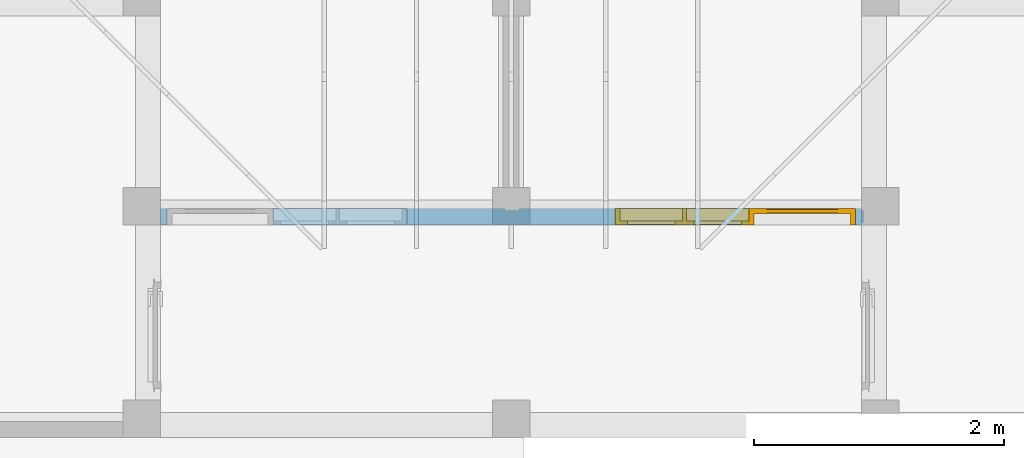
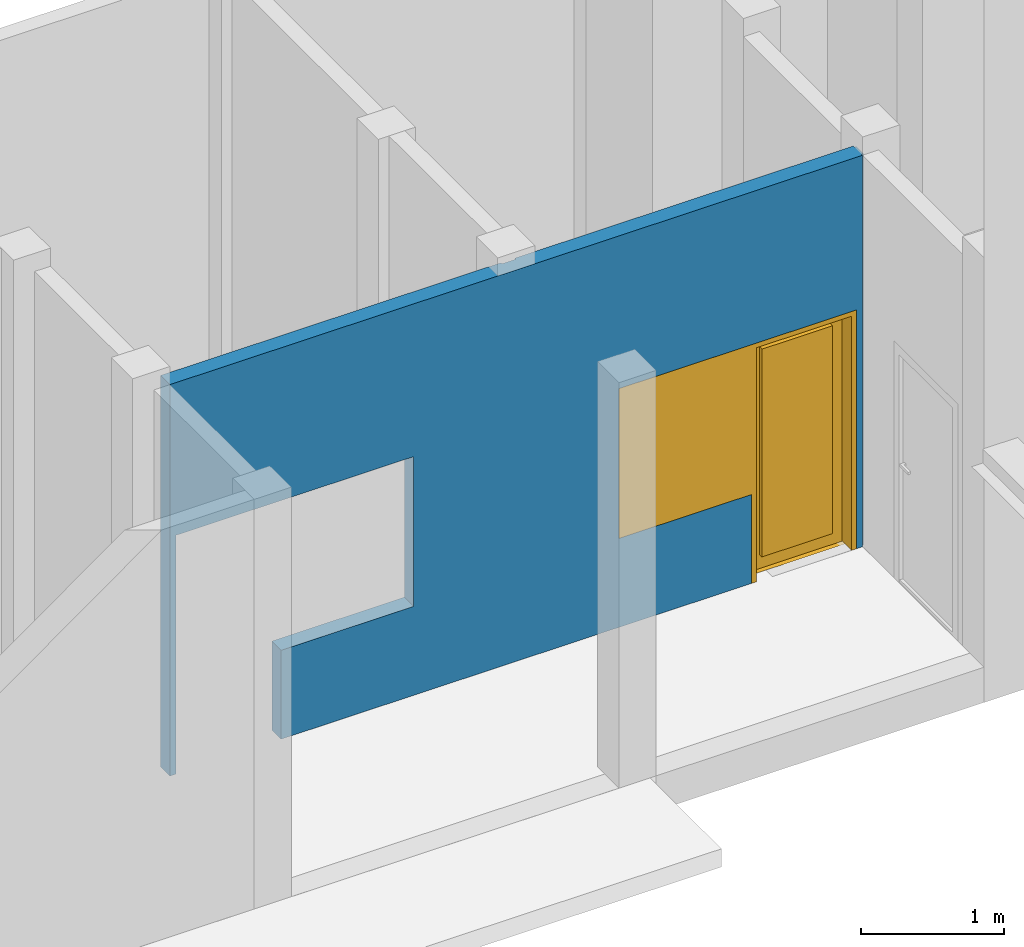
# One storey, part 5 of 10: 1 door, 1 wall, 2 openings.
"""IFC4X3_ADD2 building model written with IfcOpenShell, lengths in millimetres."""

from ifc_helpers import new_model, entity, si_unit, converted_unit, frame, origin_with_axes, origin_2d_with_axis, place, context, subcontext, project, spatial, line, indexed_curve, outline, extrude, polygons, source, transform, mapped, material, layer, layer_set, layer_usage, type_object, type_shapes, element, fill, save


model = new_model("IFC4X3_ADD2")

# Units and contexts
model_context = context("Model", 3, precision=1e-05, world=origin_with_axes())
plan_context = context("Plan", 2, precision=1e-05, world=origin_2d_with_axis())
body_context = subcontext(model_context, "Body", "Model", "MODEL_VIEW")
ifc_project = project(units=[si_unit("VOLUMEUNIT", "CUBIC_METRE"), si_unit("LENGTHUNIT", "METRE", prefix="MILLI"), converted_unit("PLANEANGLEUNIT", "degree", entity("IfcReal", 0.0174532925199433), si_unit("PLANEANGLEUNIT", "RADIAN"), dimensions=[0, 0, 0, 0, 0, 0, 0]), si_unit("AREAUNIT", "SQUARE_METRE")], contexts=[model_context, plan_context])

# Site, building, storey
site_placement = place(None, origin_with_axes())
site = spatial("IfcSite", under=ifc_project, at=site_placement, Name="My Site")
building_placement = place(site_placement, origin_with_axes())
building = spatial("IfcBuilding", under=site, at=building_placement, Name="My Building")
storey_placement = place(building_placement, origin_with_axes())
storey = spatial("IfcBuildingStorey", under=building, at=storey_placement, Name="Lantai 1")

# Wall, openings, door
ifc_material_1 = material(Name="plester")
ifc_layer_1 = layer(ifc_material_1, 15.0000009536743, Priority=1)
ifc_material_2 = material(Name="brick", Category="Uncategorised")
ifc_layer_2 = layer(ifc_material_2, 100.0, Priority=4)
ifc_layer_3 = layer(ifc_material_1, 15.0000009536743)
ifc_layer_set = layer_set([ifc_layer_1, ifc_layer_2, ifc_layer_3])
ifc_layer_usage = layer_usage(ifc_layer_set, "AXIS2", "NEGATIVE", 0.0)
wall_type = type_object("IfcWallType", Name="WALL-130", PredefinedType="SOLIDWALL", material=ifc_layer_set)
wall_placement = place(storey_placement, frame((8520.00066568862, 1549.99983310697, 0.0), z_axis=(0.0, 0.0, 1.0), x_axis=(-0.999999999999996, 8.74227765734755e-08, 0.0)))
wall = element("IfcWall", 1, at=wall_placement, inside=storey, type_object=wall_type, material=ifc_layer_usage, Name="Wall", context=body_context, shape_type="SweptSolid", body=[
    extrude(outline(indexed_curve([(-4.53518506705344e-06, -130.000001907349), (-4.01189445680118e-06, -115.000000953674), (-15.0000049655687, -115.000000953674), (-15.0000014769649, -15.0000009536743), (-5.23290610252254e-07, -15.0000009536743), (0.0, 0.0), (5600.00058939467, 0.0), (5600.00058939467, -130.000001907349), (2850.00042381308, -130.000001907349), (2850.00042363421, -115.000000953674), (2735.00042268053, -115.000000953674), (2735.00042285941, -130.000001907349)], segments=[line(1, 2, 3, 4, 5, 6, 7, 8, 9, 10, 11, 12, 1)])), origin_with_axes(), (0.0, 0.0, 1.0), 3345.00026702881),
])
shared_shape_1 = source(origin_with_axes(), body_context, "Body", "SweptSolid", [
    extrude(outline(indexed_curve([(849.998352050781, 759.999755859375), (1919.99755859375, 759.999755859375), (1919.99755859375, 2039.99987792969), (0.0, 2039.99987792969), (0.0, 0.0), (849.998352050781, -3.23401396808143e-12), (849.998352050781, 759.999755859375)])), frame((0.0, -600.0, 0.0), z_axis=(0.0, -1.0, 0.0), x_axis=(1.0, 0.0, 0.0)), (0.0, 0.0, -1.0), 1200.0),
])
opening_1_placement = place(wall_placement, frame((50.0004100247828, -130.000110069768, 0.0), z_axis=(0.0, 0.0, 1.0), x_axis=(0.999999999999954, -3.01991590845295e-07, 0.0)))
opening_1 = element("IfcOpeningElement", 2, at=opening_1_placement, cuts=wall, Name="Opening", PredefinedType="OPENING", context=body_context, shape_type="MappedRepresentation", body=[
    mapped(shared_shape_1, transform((0.0, 0.0, 0.0), x_axis=(1.0, 0.0, 0.0), y_axis=(0.0, 1.0, 0.0), z_axis=(0.0, 0.0, 1.0), scale=1.0)),
])
shared_shape_2 = source(origin_with_axes(), body_context, "Body", "SweptSolid", [
    extrude(outline(indexed_curve([(850.000183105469, 0.0), (0.0, 0.0), (0.0, 2039.99987792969), (1920.0, 2039.99987792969), (1920.0, 759.999938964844), (850.000183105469, 759.999938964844), (850.000183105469, 0.0)])), frame((-9.53674259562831e-07, -600.0, 0.0), z_axis=(0.0, -1.0, 0.0), x_axis=(1.0, 0.0, 0.0)), (0.0, 0.0, -1.0), 1200.0),
])
opening_2_placement = place(wall_placement, frame((5549.99968340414, -0.000468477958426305, 0.0), z_axis=(0.0, 0.0, 1.0), x_axis=(-0.999999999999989, 1.50995802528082e-07, 0.0)))
element("IfcOpeningElement", 3, at=opening_2_placement, cuts=wall, Name="Opening", PredefinedType="OPENING", context=body_context, shape_type="MappedRepresentation", body=[
    mapped(shared_shape_2, transform((0.0, 0.0, 0.0), x_axis=(1.0, 0.0, 0.0), y_axis=(0.0, 1.0, 0.0), z_axis=(0.0, 0.0, 1.0), scale=1.0)),
])
door_type = type_object("IfcDoorType", Name="xxxx", OperationType="NOTDEFINED", PredefinedType="DOOR")
shared_shape_3 = source(origin_with_axes(), body_context, "Body", "Tessellation", [
    polygons([(0.0, 130.000091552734, 1999.99926757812), (0.0, 130.000091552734, 0.0), (40.0009078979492, 130.000091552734, 0.0), (40.0009078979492, 130.000091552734, 1999.99926757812), (40.0009078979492, 130.000091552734, 2039.99987792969), (0.0, 130.000091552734, 2039.99987792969), (810.001281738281, 130.000091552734, 1999.99926757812), (810.001281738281, 130.000091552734, 2039.99987792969), (849.998352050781, 130.000091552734, 1999.99926757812), (849.998352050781, 130.000091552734, 2039.99987792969), (810.001281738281, 130.000091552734, 759.999877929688), (810.001281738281, 130.000091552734, 0.0), (849.998352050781, 130.000091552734, 0.0), (849.998352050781, 130.000091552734, 759.999877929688), (1349.99829101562, 130.000091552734, 1999.99926757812), (1349.99829101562, 130.000091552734, 2039.99987792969), (1380.00085449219, 130.000091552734, 1999.99926757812), (1380.00085449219, 130.000091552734, 2039.99987792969), (1349.99829101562, 130.000091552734, 799.999816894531), (1380.00085449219, 130.000091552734, 799.999816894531), (1880.00085449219, 129.999633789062, 1999.99926757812), (1880.00085449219, 129.999633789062, 2039.99987792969), (1919.99792480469, 129.999633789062, 1999.99926757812), (1919.99792480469, 129.999633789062, 2039.99987792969), (1880.00085449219, 129.999633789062, 799.999816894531), (1919.99792480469, 129.999633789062, 799.999816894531), (1880.00085449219, 129.999633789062, 759.999877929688), (1919.99792480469, 129.999633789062, 759.999877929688), (1349.99829101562, 130.000091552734, 759.999877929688), (1380.00085449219, 130.000091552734, 759.999877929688), (810.001281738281, 130.000091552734, 799.999816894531), (849.998352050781, 130.000091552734, 799.999816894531), (0.0, 0.0, 0.0), (40.0009078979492, 0.0, 1999.99926757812), (40.0009078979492, 0.0, 0.0), (0.0, 0.0, 1999.99926757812), (0.0, 0.0, 2039.99987792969), (40.0009078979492, 0.0, 2039.99987792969), (810.001281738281, 0.0, 2039.99987792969), (810.001281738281, 0.0, 1999.99926757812), (849.998352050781, 0.0, 2039.99987792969), (849.998352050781, 0.0, 1999.99926757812), (810.001281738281, 0.0, 0.0), (810.001281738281, 0.0, 759.999877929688), (849.998352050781, 0.0, 759.999877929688), (849.998352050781, 0.0, 0.0), (1349.99829101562, 0.0, 2039.99987792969), (1349.99829101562, 0.0, 1999.99926757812), (1380.00085449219, 0.0, 2039.99987792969), (1380.00085449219, 0.0, 1999.99926757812), (1349.99829101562, 0.0, 799.999816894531), (1380.00085449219, 0.0, 799.999816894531), (1880.00085449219, 0.0, 2039.99987792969), (1880.00085449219, 0.0, 1999.99926757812), (1919.99792480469, 0.0, 2039.99987792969), (1919.99792480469, 0.0, 1999.99926757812), (1880.00085449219, 0.0, 799.999816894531), (1919.99792480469, 0.0, 799.999816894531), (1880.00085449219, 0.0, 759.999877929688), (1919.99792480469, 0.0, 759.999877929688), (1349.99829101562, 0.0, 759.999877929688), (1380.00085449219, 0.0, 759.999877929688), (810.001281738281, 0.0, 799.999816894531), (849.998352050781, 0.0, 799.999816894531)], [[[3, 1, 2]], [[3, 4, 1]], [[6, 4, 5]], [[6, 1, 4]], [[5, 4, 7]], [[7, 8, 5]], [[7, 9, 8]], [[9, 10, 8]], [[13, 11, 12]], [[13, 14, 11]], [[10, 9, 15]], [[15, 16, 10]], [[15, 17, 16]], [[17, 18, 16]], [[20, 15, 19]], [[15, 20, 17]], [[18, 17, 21]], [[18, 21, 22]], [[21, 23, 22]], [[23, 24, 22]], [[26, 21, 25]], [[21, 26, 23]], [[28, 25, 27]], [[25, 28, 26]], [[30, 19, 29]], [[19, 30, 20]], [[11, 14, 31]], [[31, 14, 32]], [[32, 7, 31]], [[7, 32, 9]], [[14, 29, 19]], [[32, 14, 19]], [[25, 20, 27]], [[20, 30, 27]], [[34, 35, 33]], [[36, 34, 33]], [[38, 36, 37]], [[36, 38, 34]], [[39, 34, 38]], [[39, 40, 34]], [[39, 41, 40]], [[41, 42, 40]], [[45, 43, 44]], [[45, 46, 43]], [[42, 41, 47]], [[47, 48, 42]], [[47, 49, 48]], [[49, 50, 48]], [[48, 50, 51]], [[51, 50, 52]], [[50, 49, 53]], [[53, 54, 50]], [[53, 55, 54]], [[55, 56, 54]], [[54, 56, 57]], [[57, 56, 58]], [[57, 58, 59]], [[59, 58, 60]], [[51, 52, 61]], [[61, 52, 62]], [[64, 44, 63]], [[44, 64, 45]], [[40, 42, 63]], [[63, 42, 64]], [[45, 64, 51]], [[51, 61, 45]], [[62, 52, 57]], [[62, 57, 59]], [[15, 48, 19]], [[48, 51, 19]], [[52, 17, 20]], [[17, 52, 50]], [[41, 8, 10]], [[8, 41, 39]], [[21, 17, 50]], [[54, 21, 50]], [[13, 12, 43]], [[43, 46, 13]], [[11, 44, 12]], [[12, 44, 43]], [[3, 35, 4]], [[4, 35, 34]], [[53, 18, 22]], [[18, 53, 49]], [[7, 40, 31]], [[40, 63, 31]], [[1, 36, 2]], [[2, 36, 33]], [[24, 23, 56]], [[24, 56, 55]], [[13, 46, 14]], [[14, 46, 45]], [[63, 11, 31]], [[11, 63, 44]], [[3, 2, 33]], [[33, 35, 3]], [[55, 22, 24]], [[22, 55, 53]], [[15, 9, 42]], [[48, 15, 42]], [[64, 9, 32]], [[9, 64, 42]], [[38, 6, 5]], [[6, 38, 37]], [[47, 10, 16]], [[10, 47, 41]], [[21, 54, 25]], [[54, 57, 25]], [[29, 14, 45]], [[61, 29, 45]], [[37, 1, 6]], [[1, 37, 36]], [[58, 23, 26]], [[23, 58, 56]], [[32, 19, 51]], [[64, 32, 51]], [[30, 29, 61]], [[61, 62, 30]], [[49, 16, 18]], [[16, 49, 47]], [[62, 27, 30]], [[27, 62, 59]], [[7, 4, 34]], [[40, 7, 34]], [[28, 27, 59]], [[59, 60, 28]], [[57, 20, 25]], [[20, 57, 52]], [[39, 5, 8]], [[5, 39, 38]], [[60, 26, 28]], [[26, 60, 58]]]),
    polygons([(1349.99829101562, 99.9998931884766, 1939.99938964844), (1349.99829101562, 130.000091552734, 1939.99938964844), (1349.99829101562, 130.000091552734, 1999.99926757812), (1349.99829101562, 99.9998931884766, 859.999694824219), (1349.99829101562, 99.9998931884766, 1999.99926757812), (1290.00073242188, 99.9998931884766, 1939.99938964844), (1290.00073242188, 99.9998931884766, 859.999694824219), (909.999755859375, 99.9998931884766, 859.999694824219), (909.999755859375, 130.000091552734, 859.999694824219), (909.999755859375, 99.9998931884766, 799.999694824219), (1290.00073242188, 99.9998931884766, 799.999694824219), (1290.00073242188, 130.000091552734, 859.999694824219), (1290.00073242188, 130.000091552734, 799.999694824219), (1349.99829101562, 130.000091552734, 799.999694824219), (1349.99829101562, 130.000091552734, 859.999694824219), (1290.00073242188, 130.000091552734, 1939.99938964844), (1290.00073242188, 130.000091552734, 1999.99926757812), (909.999755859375, 130.000091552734, 1999.99926757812), (909.999755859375, 130.000091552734, 1939.99938964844), (909.999755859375, 99.9998931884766, 1939.99938964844), (1290.00073242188, 99.9998931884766, 1999.99926757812), (909.999755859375, 99.9998931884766, 1999.99926757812), (849.998352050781, 99.9998931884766, 1939.99938964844), (849.998352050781, 99.9998931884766, 859.999694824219), (849.998352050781, 130.000091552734, 859.999694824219), (849.998352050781, 99.9998931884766, 799.999694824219), (849.998352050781, 130.000091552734, 799.999694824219), (909.999755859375, 130.000091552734, 799.999694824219), (849.998352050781, 130.000091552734, 1939.99938964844), (849.998352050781, 130.000091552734, 1999.99926757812), (849.998352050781, 99.9998931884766, 1999.99926757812), (1349.99829101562, 99.9998931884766, 799.999694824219)], [[[2, 4, 1]], [[1, 3, 2]], [[3, 1, 5]], [[7, 1, 4]], [[6, 5, 1]], [[6, 1, 7]], [[10, 8, 7]], [[8, 9, 7]], [[9, 12, 7]], [[10, 7, 11]], [[4, 11, 7]], [[12, 6, 7]], [[9, 13, 12]], [[14, 12, 13]], [[14, 15, 12]], [[15, 16, 12]], [[16, 6, 12]], [[15, 2, 16]], [[2, 17, 16]], [[18, 16, 17]], [[18, 19, 16]], [[16, 19, 20]], [[16, 20, 6]], [[20, 21, 6]], [[21, 20, 22]], [[23, 22, 20]], [[23, 20, 24]], [[24, 20, 8]], [[19, 8, 20]], [[25, 23, 24]], [[25, 24, 27]], [[27, 24, 26]], [[26, 24, 8]], [[26, 28, 27]], [[28, 25, 27]], [[13, 28, 10]], [[10, 28, 26]], [[9, 28, 13]], [[28, 9, 25]], [[8, 10, 26]], [[29, 23, 25]], [[25, 9, 29]], [[31, 29, 30]], [[30, 29, 19]], [[9, 19, 29]], [[29, 31, 23]], [[23, 31, 22]], [[31, 30, 22]], [[22, 30, 18]], [[19, 18, 30]], [[22, 18, 21]], [[17, 5, 21]], [[5, 6, 21]], [[18, 17, 21]], [[9, 8, 19]], [[17, 2, 3]], [[5, 17, 3]], [[15, 4, 2]], [[15, 32, 4]], [[14, 32, 15]], [[11, 4, 32]], [[32, 14, 11]], [[11, 14, 13]], [[13, 10, 11]]]),
    polygons([(139.999359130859, 39.9999542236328, 119.999992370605), (709.998962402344, 39.9999542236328, 119.999992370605), (139.999359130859, 0.0, 119.999992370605), (139.999359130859, 0.0, 1899.99914550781), (139.999359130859, 39.9999542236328, 1899.99914550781), (40.0009078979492, 39.9999542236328, 119.999992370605), (40.0009078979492, 39.9999542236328, 0.0), (139.999359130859, 39.9999542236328, 0.0), (139.999359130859, 0.0, 0.0), (709.998962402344, 0.0, 0.0), (709.998962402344, 39.9999542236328, 0.0), (809.997436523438, 0.0, 0.0), (809.997436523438, 39.9999542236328, 0.0), (809.997436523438, 39.9999542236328, 119.999992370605), (809.997436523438, 0.0, 119.999992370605), (809.997436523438, 0.0, 1899.99914550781), (809.997436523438, 39.9999542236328, 1899.99914550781), (809.997436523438, 0.0, 1999.99926757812), (809.997436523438, 39.9999542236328, 1999.99926757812), (709.998962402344, 39.9999542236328, 1899.99914550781), (709.998962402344, 39.9999542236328, 1999.99926757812), (709.998962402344, 0.0, 1899.99914550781), (709.998962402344, 0.0, 119.999992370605), (709.998962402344, 0.0, 1999.99926757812), (139.999359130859, 0.0, 1999.99926757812), (139.999359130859, 39.9999542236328, 1999.99926757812), (40.0009078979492, 0.0, 1999.99926757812), (40.0009078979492, 39.9999542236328, 1999.99926757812), (40.0009078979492, 0.0, 1899.99914550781), (40.0009078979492, 0.0, 119.999992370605), (40.0009078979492, 39.9999542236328, 1899.99914550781), (40.0009078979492, 0.0, 0.0)], [[[8, 1, 2]], [[2, 1, 3]], [[1, 4, 3]], [[5, 4, 1]], [[5, 1, 6]], [[1, 7, 6]], [[7, 1, 8]], [[9, 7, 8]], [[9, 8, 10]], [[10, 8, 11]], [[8, 2, 11]], [[11, 12, 10]], [[11, 13, 12]], [[11, 14, 13]], [[2, 14, 11]], [[14, 15, 13]], [[14, 16, 15]], [[17, 16, 14]], [[2, 17, 14]], [[17, 18, 16]], [[19, 18, 17]], [[19, 17, 20]], [[20, 17, 2]], [[21, 19, 20]], [[5, 21, 20]], [[22, 5, 20]], [[20, 23, 22]], [[2, 23, 20]], [[10, 23, 3]], [[23, 2, 3]], [[10, 12, 23]], [[23, 12, 15]], [[23, 15, 22]], [[22, 15, 16]], [[22, 16, 24]], [[25, 22, 24]], [[25, 4, 22]], [[4, 5, 22]], [[24, 21, 25]], [[25, 21, 26]], [[25, 26, 27]], [[27, 4, 25]], [[29, 4, 27]], [[27, 26, 28]], [[28, 29, 27]], [[29, 3, 4]], [[30, 3, 29]], [[31, 30, 29]], [[29, 28, 31]], [[26, 5, 31]], [[26, 31, 28]], [[6, 30, 31]], [[31, 5, 6]], [[9, 3, 30]], [[32, 9, 30]], [[6, 32, 30]], [[7, 32, 6]], [[32, 7, 9]], [[21, 5, 26]], [[24, 16, 18]], [[18, 19, 24]], [[24, 19, 21]], [[13, 15, 12]], [[3, 9, 10]]]),
    polygons([(139.999359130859, 35.000316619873, 119.999992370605), (709.998962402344, 34.9998397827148, 119.999992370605), (139.999359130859, 5.00011348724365, 119.999992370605), (139.999359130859, 5.00011348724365, 1899.99914550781), (139.999359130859, 35.000316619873, 1899.99914550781), (709.998962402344, 5.00011348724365, 1899.99914550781), (709.998962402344, 34.9998397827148, 1899.99914550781), (709.998962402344, 5.00011348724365, 119.999992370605)], [[[5, 1, 2]], [[2, 1, 3]], [[1, 4, 3]], [[5, 4, 1]], [[4, 5, 6]], [[6, 5, 7]], [[2, 7, 5]], [[7, 8, 6]], [[2, 8, 7]], [[3, 6, 8]], [[8, 2, 3]], [[6, 3, 4]]]),
    polygons([(1290.00073242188, 130.000091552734, 1939.99938964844), (909.999755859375, 130.000091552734, 1939.99938964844), (1290.00073242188, 124.999984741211, 1939.99938964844), (1290.00073242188, 124.999984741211, 859.999694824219), (1290.00073242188, 130.000091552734, 859.999694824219), (909.999755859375, 124.999984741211, 859.999694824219), (909.999755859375, 130.000091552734, 859.999694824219), (909.999755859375, 124.999984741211, 1939.99938964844)], [[[2, 5, 1]], [[2, 1, 3]], [[1, 4, 3]], [[5, 4, 1]], [[5, 6, 4]], [[6, 5, 7]], [[7, 5, 2]], [[7, 8, 6]], [[2, 8, 7]], [[8, 3, 6]], [[8, 2, 3]], [[6, 3, 4]]]),
    polygons([(1879.9970703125, 99.9998931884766, 1939.99938964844), (1879.9970703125, 129.999633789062, 1939.99938964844), (1879.9970703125, 129.999633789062, 1999.99926757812), (1879.9970703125, 99.9998931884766, 859.999694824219), (1879.9970703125, 99.9998931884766, 1999.99926757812), (1819.99951171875, 99.9998931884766, 1939.99938964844), (1819.99951171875, 99.9998931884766, 859.999694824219), (1439.99841308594, 99.9998931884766, 859.999694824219), (1439.99841308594, 130.000091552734, 859.999694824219), (1439.99841308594, 99.9998931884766, 799.999694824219), (1819.99951171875, 99.9998931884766, 799.999694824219), (1819.99951171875, 129.999633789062, 859.999694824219), (1819.99951171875, 129.999633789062, 799.999694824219), (1879.9970703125, 129.999633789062, 799.999694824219), (1879.9970703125, 129.999633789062, 859.999694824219), (1819.99951171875, 129.999633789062, 1939.99938964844), (1819.99951171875, 129.999633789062, 1999.99926757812), (1439.99841308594, 130.000091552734, 1999.99926757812), (1439.99841308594, 130.000091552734, 1939.99938964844), (1439.99841308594, 99.9998931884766, 1939.99938964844), (1819.99951171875, 99.9998931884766, 1999.99926757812), (1439.99841308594, 99.9998931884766, 1999.99926757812), (1379.9970703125, 99.9998931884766, 1939.99938964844), (1379.9970703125, 99.9998931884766, 859.999694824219), (1379.9970703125, 130.000091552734, 859.999694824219), (1379.9970703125, 99.9998931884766, 799.999694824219), (1379.9970703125, 130.000091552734, 799.999694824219), (1439.99841308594, 130.000091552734, 799.999694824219), (1379.9970703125, 130.000091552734, 1939.99938964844), (1379.9970703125, 130.000091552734, 1999.99926757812), (1379.9970703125, 99.9998931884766, 1999.99926757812), (1879.9970703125, 99.9998931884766, 799.999694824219)], [[[2, 4, 1]], [[1, 3, 2]], [[3, 1, 5]], [[7, 1, 4]], [[6, 5, 1]], [[6, 1, 7]], [[10, 8, 7]], [[8, 9, 7]], [[9, 12, 7]], [[10, 7, 11]], [[4, 11, 7]], [[12, 6, 7]], [[14, 12, 13]], [[12, 9, 13]], [[14, 15, 12]], [[15, 16, 12]], [[16, 6, 12]], [[15, 2, 16]], [[2, 17, 16]], [[17, 18, 16]], [[18, 19, 16]], [[16, 19, 20]], [[16, 20, 6]], [[20, 21, 6]], [[21, 20, 22]], [[23, 22, 20]], [[23, 20, 24]], [[24, 20, 8]], [[19, 8, 20]], [[25, 23, 24]], [[25, 24, 27]], [[27, 24, 26]], [[26, 24, 8]], [[26, 28, 27]], [[28, 25, 27]], [[13, 28, 10]], [[10, 28, 26]], [[9, 28, 13]], [[28, 9, 25]], [[8, 10, 26]], [[29, 23, 25]], [[25, 9, 29]], [[31, 29, 30]], [[30, 29, 19]], [[9, 19, 29]], [[29, 31, 23]], [[23, 31, 22]], [[31, 30, 22]], [[22, 30, 18]], [[19, 18, 30]], [[22, 18, 21]], [[17, 5, 21]], [[5, 6, 21]], [[18, 17, 21]], [[9, 8, 19]], [[17, 2, 3]], [[5, 17, 3]], [[15, 4, 2]], [[15, 32, 4]], [[14, 32, 15]], [[11, 4, 32]], [[32, 14, 11]], [[11, 14, 13]], [[13, 10, 11]]]),
    polygons([(1819.99951171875, 129.999633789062, 1939.99938964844), (1439.99841308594, 130.000091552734, 1939.99938964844), (1819.99951171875, 124.999984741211, 1939.99938964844), (1819.99951171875, 124.999984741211, 859.999694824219), (1819.99951171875, 129.999633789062, 859.999694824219), (1439.99841308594, 124.999984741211, 859.999694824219), (1439.99841308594, 130.000091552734, 859.999694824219), (1439.99841308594, 124.999984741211, 1939.99938964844)], [[[1, 2, 5]], [[2, 1, 3]], [[1, 4, 3]], [[5, 4, 1]], [[5, 6, 4]], [[6, 5, 7]], [[2, 7, 5]], [[7, 8, 6]], [[2, 8, 7]], [[8, 3, 6]], [[8, 2, 3]], [[6, 3, 4]]]),
])
type_shapes(door_type, [shared_shape_3])
door_placement = place(opening_1_placement, frame((3.5527136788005e-12, 0.0, 0.0), z_axis=(0.0, 0.0, 1.0), x_axis=(1.0, -5.29395592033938e-23, 0.0)))
door = element("IfcDoor", 4, at=door_placement, inside=storey, type_object=door_type, Name="Door", context=body_context, shape_type="MappedRepresentation", body=[
    mapped(shared_shape_3, transform((0.0, 0.0, 0.0), x_axis=(1.0, 0.0, 0.0), y_axis=(0.0, 1.0, 0.0), z_axis=(0.0, 0.0, 1.0), scale=1.0)),
])
fill(opening_1, door)

save(model, "model.ifc")
